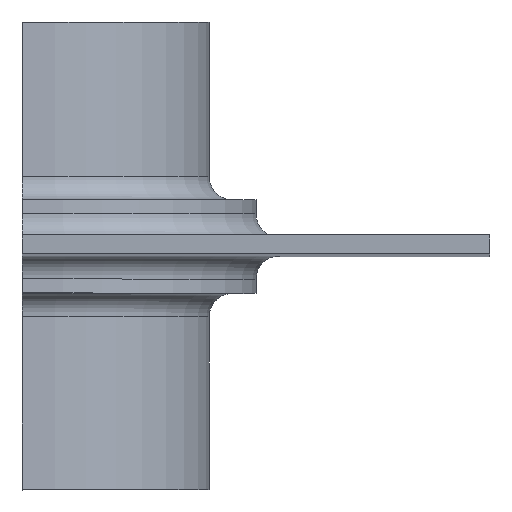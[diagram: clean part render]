
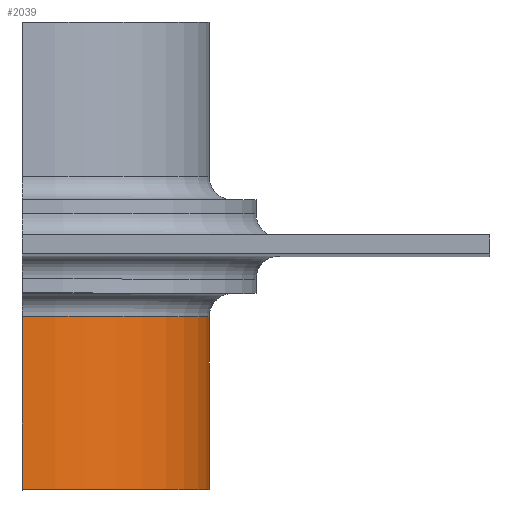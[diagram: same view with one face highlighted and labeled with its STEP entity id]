
A CAD part, top view. The second image highlights one B-rep face of the part: STEP entity #2039.
In plain terms, the highlighted cylindrical face has radius 40 mm (diameter 80 mm), a partial arc.
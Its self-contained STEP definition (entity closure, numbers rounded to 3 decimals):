
#505 = PLANE('',#506);
#506 = AXIS2_PLACEMENT_3D('',#507,#508,#509);
#507 = CARTESIAN_POINT('',(100.,-100.,0.));
#508 = DIRECTION('',(0.,-1.,0.));
#509 = DIRECTION('',(1.,0.,0.));
#531 = CYLINDRICAL_SURFACE('',#532,40.);
#532 = AXIS2_PLACEMENT_3D('',#533,#534,#535);
#533 = CARTESIAN_POINT('',(100.,0.,0.));
#534 = DIRECTION('',(0.,-1.,0.));
#535 = DIRECTION('',(1.,0.,0.));
#612 = TOROIDAL_SURFACE('',#613,45.,5.);
#613 = AXIS2_PLACEMENT_3D('',#614,#615,#616);
#614 = CARTESIAN_POINT('',(100.,-63.,0.));
#615 = DIRECTION('',(0.,1.,0.));
#616 = DIRECTION('',(1.,0.,0.));
#685 = PLANE('',#686);
#686 = AXIS2_PLACEMENT_3D('',#687,#688,#689);
#687 = CARTESIAN_POINT('',(100.,-250.,-240.));
#688 = DIRECTION('',(1.,0.,0.));
#689 = DIRECTION('',(0.,0.,1.));
#937 = VERTEX_POINT('',#938);
#938 = CARTESIAN_POINT('',(140.,-63.,0.));
#985 = EDGE_CURVE('',#937,#986,#988,.T.);
#986 = VERTEX_POINT('',#987);
#987 = CARTESIAN_POINT('',(140.,-100.,0.));
#988 = SURFACE_CURVE('',#989,(#993,#1000),.PCURVE_S1.);
#989 = LINE('',#990,#991);
#990 = CARTESIAN_POINT('',(140.,0.,0.));
#991 = VECTOR('',#992,1.);
#992 = DIRECTION('',(0.,-1.,0.));
#993 = PCURVE('',#531,#994);
#994 = DEFINITIONAL_REPRESENTATION('',(#995),#999);
#995 = LINE('',#996,#997);
#996 = CARTESIAN_POINT('',(6.283,0.));
#997 = VECTOR('',#998,1.);
#998 = DIRECTION('',(0.,1.));
#999 = ( GEOMETRIC_REPRESENTATION_CONTEXT(2) 
PARAMETRIC_REPRESENTATION_CONTEXT() REPRESENTATION_CONTEXT('2D SPACE',''
  ) );
#1000 = PCURVE('',#1001,#1006);
#1001 = CYLINDRICAL_SURFACE('',#1002,40.);
#1002 = AXIS2_PLACEMENT_3D('',#1003,#1004,#1005);
#1003 = CARTESIAN_POINT('',(100.,0.,0.));
#1004 = DIRECTION('',(0.,-1.,0.));
#1005 = DIRECTION('',(1.,0.,0.));
#1006 = DEFINITIONAL_REPRESENTATION('',(#1007),#1011);
#1007 = LINE('',#1008,#1009);
#1008 = CARTESIAN_POINT('',(0.,0.));
#1009 = VECTOR('',#1010,1.);
#1010 = DIRECTION('',(0.,1.));
#1011 = ( GEOMETRIC_REPRESENTATION_CONTEXT(2) 
PARAMETRIC_REPRESENTATION_CONTEXT() REPRESENTATION_CONTEXT('2D SPACE',''
  ) );
#1040 = EDGE_CURVE('',#986,#1041,#1043,.T.);
#1041 = VERTEX_POINT('',#1042);
#1042 = CARTESIAN_POINT('',(100.,-100.,40.));
#1043 = SURFACE_CURVE('',#1044,(#1049,#1056),.PCURVE_S1.);
#1044 = CIRCLE('',#1045,40.);
#1045 = AXIS2_PLACEMENT_3D('',#1046,#1047,#1048);
#1046 = CARTESIAN_POINT('',(100.,-100.,0.));
#1047 = DIRECTION('',(0.,-1.,0.));
#1048 = DIRECTION('',(1.,0.,0.));
#1049 = PCURVE('',#505,#1050);
#1050 = DEFINITIONAL_REPRESENTATION('',(#1051),#1055);
#1051 = CIRCLE('',#1052,40.);
#1052 = AXIS2_PLACEMENT_2D('',#1053,#1054);
#1053 = CARTESIAN_POINT('',(0.,0.));
#1054 = DIRECTION('',(1.,0.));
#1055 = ( GEOMETRIC_REPRESENTATION_CONTEXT(2) 
PARAMETRIC_REPRESENTATION_CONTEXT() REPRESENTATION_CONTEXT('2D SPACE',''
  ) );
#1056 = PCURVE('',#1001,#1057);
#1057 = DEFINITIONAL_REPRESENTATION('',(#1058),#1062);
#1058 = LINE('',#1059,#1060);
#1059 = CARTESIAN_POINT('',(0.,100.));
#1060 = VECTOR('',#1061,1.);
#1061 = DIRECTION('',(1.,0.));
#1062 = ( GEOMETRIC_REPRESENTATION_CONTEXT(2) 
PARAMETRIC_REPRESENTATION_CONTEXT() REPRESENTATION_CONTEXT('2D SPACE',''
  ) );
#1779 = VERTEX_POINT('',#1780);
#1780 = CARTESIAN_POINT('',(100.,-63.,40.));
#1802 = EDGE_CURVE('',#937,#1779,#1803,.T.);
#1803 = SURFACE_CURVE('',#1804,(#1809,#1816),.PCURVE_S1.);
#1804 = CIRCLE('',#1805,40.);
#1805 = AXIS2_PLACEMENT_3D('',#1806,#1807,#1808);
#1806 = CARTESIAN_POINT('',(100.,-63.,0.));
#1807 = DIRECTION('',(0.,-1.,0.));
#1808 = DIRECTION('',(1.,0.,0.));
#1809 = PCURVE('',#612,#1810);
#1810 = DEFINITIONAL_REPRESENTATION('',(#1811),#1815);
#1811 = LINE('',#1812,#1813);
#1812 = CARTESIAN_POINT('',(0.,3.142));
#1813 = VECTOR('',#1814,1.);
#1814 = DIRECTION('',(-1.,0.));
#1815 = ( GEOMETRIC_REPRESENTATION_CONTEXT(2) 
PARAMETRIC_REPRESENTATION_CONTEXT() REPRESENTATION_CONTEXT('2D SPACE',''
  ) );
#1816 = PCURVE('',#1001,#1817);
#1817 = DEFINITIONAL_REPRESENTATION('',(#1818),#1822);
#1818 = LINE('',#1819,#1820);
#1819 = CARTESIAN_POINT('',(0.,63.));
#1820 = VECTOR('',#1821,1.);
#1821 = DIRECTION('',(1.,0.));
#1822 = ( GEOMETRIC_REPRESENTATION_CONTEXT(2) 
PARAMETRIC_REPRESENTATION_CONTEXT() REPRESENTATION_CONTEXT('2D SPACE',''
  ) );
#1831 = EDGE_CURVE('',#1779,#1041,#1832,.T.);
#1832 = SURFACE_CURVE('',#1833,(#1837,#1843),.PCURVE_S1.);
#1833 = LINE('',#1834,#1835);
#1834 = CARTESIAN_POINT('',(100.,0.,40.));
#1835 = VECTOR('',#1836,1.);
#1836 = DIRECTION('',(0.,-1.,0.));
#1837 = PCURVE('',#685,#1838);
#1838 = DEFINITIONAL_REPRESENTATION('',(#1839),#1842);
#1839 = B_SPLINE_CURVE_WITH_KNOTS('',1,(#1840,#1841),.UNSPECIFIED.,.F.,
  .F.,(2,2),(63.,100.),.PIECEWISE_BEZIER_KNOTS.);
#1840 = CARTESIAN_POINT('',(280.,-187.));
#1841 = CARTESIAN_POINT('',(280.,-150.));
#1842 = ( GEOMETRIC_REPRESENTATION_CONTEXT(2) 
PARAMETRIC_REPRESENTATION_CONTEXT() REPRESENTATION_CONTEXT('2D SPACE',''
  ) );
#1843 = PCURVE('',#1001,#1844);
#1844 = DEFINITIONAL_REPRESENTATION('',(#1845),#1848);
#1845 = B_SPLINE_CURVE_WITH_KNOTS('',1,(#1846,#1847),.UNSPECIFIED.,.F.,
  .F.,(2,2),(63.,100.),.PIECEWISE_BEZIER_KNOTS.);
#1846 = CARTESIAN_POINT('',(1.571,63.));
#1847 = CARTESIAN_POINT('',(1.571,100.));
#1848 = ( GEOMETRIC_REPRESENTATION_CONTEXT(2) 
PARAMETRIC_REPRESENTATION_CONTEXT() REPRESENTATION_CONTEXT('2D SPACE',''
  ) );
#2039 = ADVANCED_FACE('',(#2040),#1001,.T.);
#2040 = FACE_BOUND('',#2041,.T.);
#2041 = EDGE_LOOP('',(#2042,#2043,#2044,#2045));
#2042 = ORIENTED_EDGE('',*,*,#985,.F.);
#2043 = ORIENTED_EDGE('',*,*,#1802,.T.);
#2044 = ORIENTED_EDGE('',*,*,#1831,.T.);
#2045 = ORIENTED_EDGE('',*,*,#1040,.F.);
